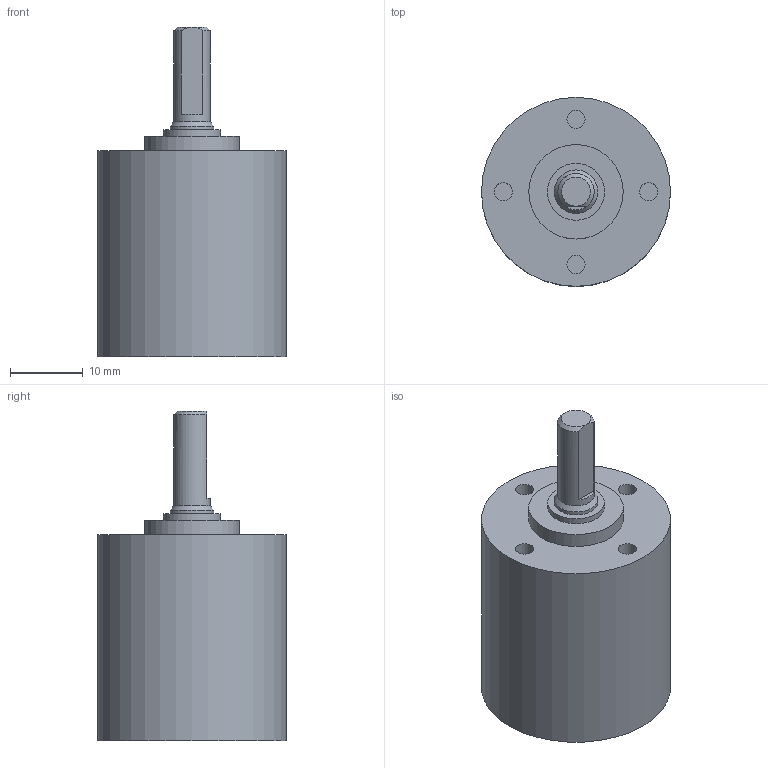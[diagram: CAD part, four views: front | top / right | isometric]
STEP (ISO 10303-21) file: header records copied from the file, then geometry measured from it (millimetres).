
FILE_DESCRIPTION(/* description */ (''),/* implementation_level */ '2;1');
FILE_NAME(/* name */ '26-1R_1stage.stp',/* time_stamp */ '2017-04-18T12:06:50+02:00',/* author */ ('DR. FRITZ FAULHABER GmbH & Co. KG'),/* organization */ ('DR. FRITZ FAULHABER GmbH & Co. KG'),/* preprocessor_version */ 'ST-DEVELOPER v16',/* originating_system */ 'SIEMENS PLM Software NX 10.0',/* authorisation */ '');
FILE_SCHEMA (('AUTOMOTIVE_DESIGN { 1 0 10303 214 3 1 1 1 }'));
Length unit declared in the file: millimetre
Products named in the file (1): H00000163_B
Bounding box: 26 x 26 x 45.4 mm (x, y, z)
Volume: 11171.5 mm3; surface area: 4683 mm2
Topology: 1 solids, 1 shells, 33 faces, 56 edges, 37 vertices
Faces by surface type: plane 16, cylinder 15, cone 2
Full cylindrical faces by diameter (mm): 2.5 x4, 5 x1, 6 x1, 7.85 x1, 11.69 x1, 11.7 x1, 13 x1, 21.5 x1, 22.05 x1, 24 x1, 24.459 x1, 26 x1
Entity records: 717 total; most frequent: DIRECTION 131, CARTESIAN_POINT 126, ORIENTED_EDGE 72, AXIS2_PLACEMENT_3D 64, EDGE_LOOP 61, FACE_BOUND 52, EDGE_CURVE 36, ADVANCED_FACE 33
